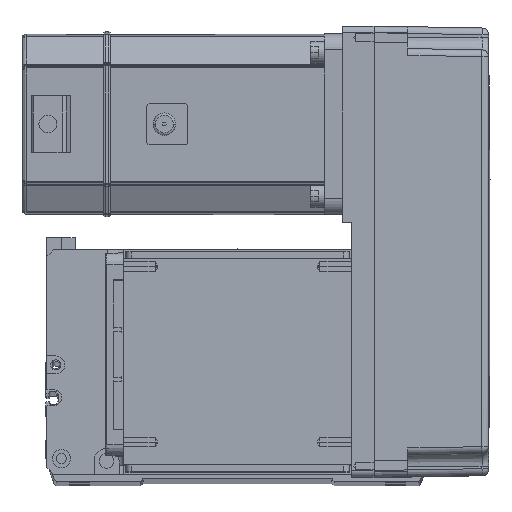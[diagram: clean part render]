
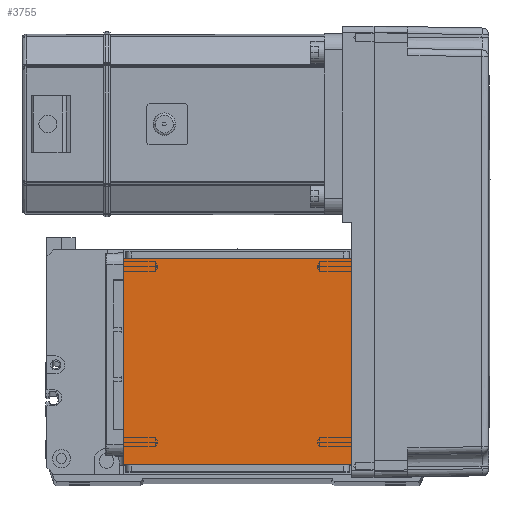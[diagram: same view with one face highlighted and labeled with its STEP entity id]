
A CAD part, top view. The second image highlights one B-rep face of the part: STEP entity #3755.
In plain terms, the highlighted planar face has unit normal (0, 0, 1).
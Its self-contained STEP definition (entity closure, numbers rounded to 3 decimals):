
#991 = DIRECTION ( 'NONE',  ( -1., 0., 0. ) ) ;
#2207 = VERTEX_POINT ( 'NONE', #57956 ) ;
#3755 = ADVANCED_FACE ( 'NONE', ( #4760 ), #14520, .T. ) ;
#4386 = EDGE_CURVE ( 'NONE', #2207, #48122, #50761, .T. ) ;
#4760 = FACE_OUTER_BOUND ( 'NONE', #30072, .T. ) ;
#10085 = VECTOR ( 'NONE', #53004, 1000. ) ;
#11020 = CARTESIAN_POINT ( 'NONE',  ( -50.5, 20., 115. ) ) ;
#13991 = ORIENTED_EDGE ( 'NONE', *, *, #4386, .T. ) ;
#14336 = DIRECTION ( 'NONE',  ( 0., 0., 1. ) ) ;
#14379 = VECTOR ( 'NONE', #991, 1000. ) ;
#14520 = PLANE ( 'NONE',  #17674 ) ;
#16474 = LINE ( 'NONE', #48471, #10085 ) ;
#17009 = VECTOR ( 'NONE', #29662, 1000. ) ;
#17304 = CARTESIAN_POINT ( 'NONE',  ( -50.5, 122., 115. ) ) ;
#17674 = AXIS2_PLACEMENT_3D ( 'NONE', #23676, #14336, #28249 ) ;
#17886 = DIRECTION ( 'NONE',  ( 0., -1., 0. ) ) ;
#17998 = EDGE_CURVE ( 'NONE', #52606, #48122, #44868, .T. ) ;
#23676 = CARTESIAN_POINT ( 'NONE',  ( 0., 0., 115. ) ) ;
#25288 = VECTOR ( 'NONE', #17886, 1000. ) ;
#28249 = DIRECTION ( 'NONE',  ( 1., 0., 0. ) ) ;
#29183 = VERTEX_POINT ( 'NONE', #51554 ) ;
#29547 = CARTESIAN_POINT ( 'NONE',  ( 50.5, 20., 115. ) ) ;
#29662 = DIRECTION ( 'NONE',  ( 1., 0., 0. ) ) ;
#30072 = EDGE_LOOP ( 'NONE', ( #47245, #13991, #31971, #52209 ) ) ;
#31971 = ORIENTED_EDGE ( 'NONE', *, *, #17998, .F. ) ;
#33102 = EDGE_CURVE ( 'NONE', #2207, #29183, #48222, .T. ) ;
#33333 = CARTESIAN_POINT ( 'NONE',  ( -70.004, 20., 115. ) ) ;
#44868 = LINE ( 'NONE', #33333, #14379 ) ;
#47245 = ORIENTED_EDGE ( 'NONE', *, *, #33102, .F. ) ;
#48122 = VERTEX_POINT ( 'NONE', #11020 ) ;
#48222 = LINE ( 'NONE', #56781, #17009 ) ;
#48471 = CARTESIAN_POINT ( 'NONE',  ( 50.5, 122., 115. ) ) ;
#50761 = LINE ( 'NONE', #17304, #25288 ) ;
#51554 = CARTESIAN_POINT ( 'NONE',  ( 50.5, 111.5, 115. ) ) ;
#52209 = ORIENTED_EDGE ( 'NONE', *, *, #56102, .T. ) ;
#52606 = VERTEX_POINT ( 'NONE', #29547 ) ;
#53004 = DIRECTION ( 'NONE',  ( 0., 1., 0. ) ) ;
#56102 = EDGE_CURVE ( 'NONE', #52606, #29183, #16474, .T. ) ;
#56781 = CARTESIAN_POINT ( 'NONE',  ( -70.004, 111.5, 115. ) ) ;
#57956 = CARTESIAN_POINT ( 'NONE',  ( -50.5, 111.5, 115. ) ) ;
